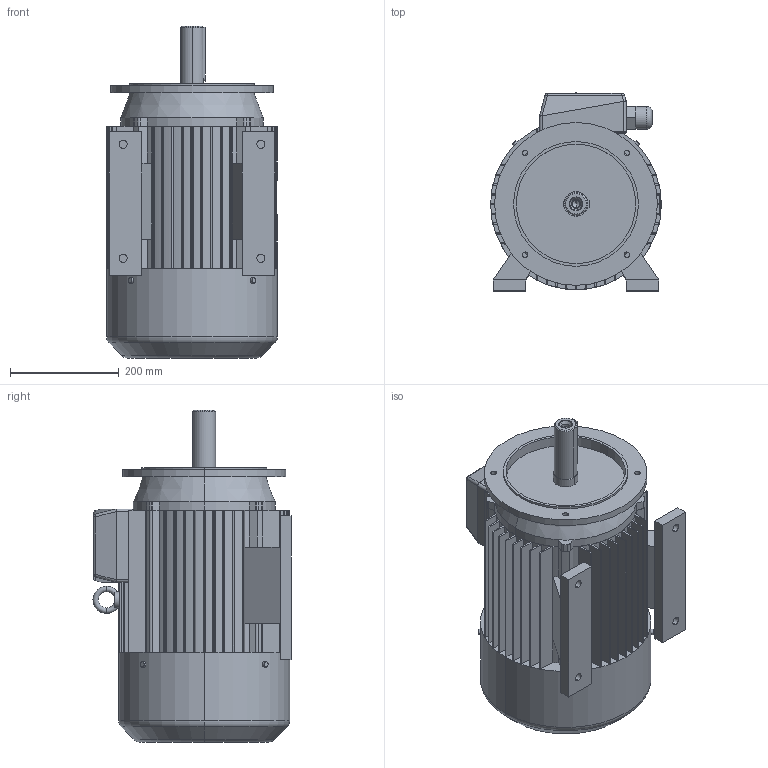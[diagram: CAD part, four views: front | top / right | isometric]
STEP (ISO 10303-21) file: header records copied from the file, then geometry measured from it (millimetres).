
FILE_DESCRIPTION (( 'STEP AP203' ), '1' );
FILE_NAME ('SLg 160M-B34-C1.STEP', '2010-04-15T12:58:39', ( 'INDUKTA' ), ( 'CANTONI MOTOR' ), 'SwSTEP 2.0', 'SolidWorks 2003064', '' );
FILE_SCHEMA (( 'CONFIG_CONTROL_DESIGN' ));
Length unit declared in the file: millimetre
Products named in the file (1): SLg 160M-B34-C1
Bounding box: 315 x 365 x 612 mm (x, y, z)
Volume: 34155832.5 mm3; surface area: 1679064.6 mm2
Topology: 14 solids, 14 shells, 541 faces, 1431 edges, 925 vertices
Faces by surface type: plane 270, cylinder 195, bspline 42, torus 16, cone 14, sphere 4
Entity records: 19888 total; most frequent: CARTESIAN_POINT 6385, ORIENTED_EDGE 2850, DIRECTION 2742, EDGE_CURVE 1425, AXIS2_PLACEMENT_3D 926, VERTEX_POINT 925, LINE 890, VECTOR 890
